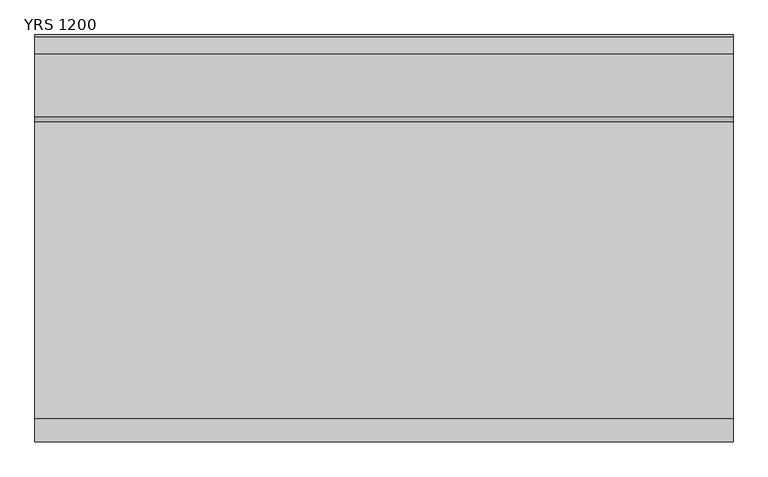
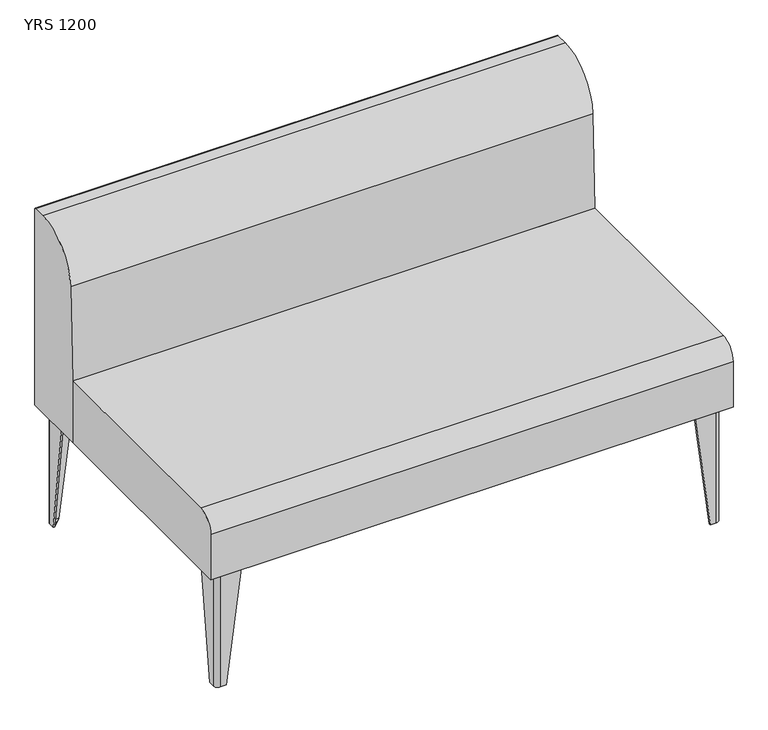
"""IFC4 building model written with IfcOpenShell, lengths in millimetres: furniture geometry, Mobiliário_Mobiliário de Escritório_LinhaYoung_Sofa Reto (Aço) - YR_Marelli : YRS 1200."""

from ifc_helpers import new_model, si_unit, point, frame, frame_2d, origin, origin_with_axes, place, context, project, spatial, polyline, circle_curve, trimmed, segment, composite_curve, outline, extrude, source, transform, mapped, element, save
from ifc_brep_helpers import plane_surface, cylinder_surface, revolved_surface, advanced_brep


def yrs_1200_bf4bd0c3(model_context):
    return source(origin(), model_context, "Body", "SolidModel", [
        advanced_brep(
        [(20.0, 75.0, 280.0), (20.0, 25.0, 280.0), (30.0, 15.0, 280.0), (80.0, 15.0, 280.0), (80.0, 18.0, 280.0), (30.0, 18.0, 280.0), (23.0, 25.0, 280.0), (23.0, 75.0, 280.0), (20.0, 39.0, 0.0), (23.0, 39.0, 0.0), (23.0, 25.0, 0.0), (30.0, 18.0, 0.0), (44.0, 18.0, 0.0), (44.0, 15.0, 0.0), (30.0, 15.0, 0.0), (20.0, 25.0, 0.0)],
        [
            (0, 1),
            (1, 2, circle_curve(frame((30.0, 25.0, 280.0), z_axis=(0.0, 0.0, 1.0), x_axis=(0.0, -1.0, 0.0)), 10.0)),
            (2, 3),
            (3, 4),
            (4, 5),
            (5, 6, circle_curve(frame((30.0, 25.0, 280.0), z_axis=(0.0, 0.0, -1.0), x_axis=(-1.0, 0.0, 0.0)), 7.0)),
            (6, 7),
            (7, 0),
            (8, 9),
            (9, 10),
            (10, 11, circle_curve(frame((30.0, 25.0, 0.0), z_axis=(0.0, 0.0, 1.0), x_axis=(-1.0, 0.0, 0.0)), 7.0)),
            (11, 12),
            (12, 13),
            (13, 14),
            (14, 15, circle_curve(frame((30.0, 25.0, 0.0), z_axis=(0.0, 0.0, -1.0), x_axis=(0.0, -1.0, 0.0)), 10.0)),
            (15, 8),
            (15, 1),
            (0, 8),
            (14, 2),
            (13, 3),
            (12, 4),
            (11, 5),
            (10, 6),
            (9, 7),
        ],
        [
            plane_surface(frame((38.25, 33.25, 280.0), z_axis=(0.0, 0.0, 1.0), x_axis=(0.0, -1.0, 0.0))),
            plane_surface(frame((29.25, 24.25, 0.0), z_axis=(0.0, 0.0, -1.0), x_axis=(0.0, -1.0, 0.0))),
            plane_surface(frame((20.0, 32.0, 0.0), z_axis=(-1.0, 0.0, 0.0), x_axis=(0.0, -1.0, 0.0))),
            cylinder_surface(frame((30.0, 25.0, 0.0), z_axis=(0.0, 0.0, 1.0), x_axis=(0.0, -1.0, 0.0)), 10.0),
            plane_surface(frame((37.0, 15.0, 0.0), z_axis=(0.0, -1.0, 0.0), x_axis=(1.0, 0.0, 0.0))),
            plane_surface(frame((44.0, 16.5, 0.0), z_axis=(0.9918357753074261, 0.0, -0.12752174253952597), x_axis=(0.0, 1.0, 0.0))),
            plane_surface(frame((37.0, 18.0, 0.0), z_axis=(0.0, 1.0, 0.0), x_axis=(-1.0, 0.0, 0.0))),
            revolved_surface(polyline([(23.0, 25.0, 280.0), (23.0, 25.0, 0.0)]), (30.0, 25.0, 0.0), (0.0, 0.0, 1.0)),
            plane_surface(frame((23.0, 32.0, 0.0), z_axis=(1.0, 0.0, 0.0), x_axis=(0.0, 1.0, 0.0))),
            plane_surface(frame((21.5, 39.0, 0.0), z_axis=(0.0, 0.9918357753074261, -0.12752174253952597), x_axis=(-1.0, 0.0, 0.0))),
        ],
        [
            (0, [[1, 2, 3, 4, 5, 6, 7, 8]]),
            (1, [[9, 10, 11, 12, 13, 14, 15, 16]]),
            (2, [[-16, 17, -1, 18]]),
            (3, [[-15, 19, -2, -17]]),
            (4, [[-14, 20, -3, -19]]),
            (5, [[-13, 21, -4, -20]]),
            (6, [[-12, 22, -5, -21]]),
            (7, [[-11, 23, -6, -22]]),
            (8, [[-10, 24, -7, -23]]),
            (9, [[-9, -18, -8, -24]]),
        ],
    ),
        advanced_brep(
        [(1180.0, 75.0, 280.0), (1177.0, 75.0, 280.0), (1177.0, 25.0, 280.0), (1170.0, 18.0, 280.0), (1120.0, 18.0, 280.0), (1120.0, 15.0, 280.0), (1170.0, 15.0, 280.0), (1180.0, 25.0, 280.0), (1180.0, 39.0, 0.0), (1180.0, 25.0, 0.0), (1170.0, 15.0, 0.0), (1156.0, 15.0, 0.0), (1156.0, 18.0, 0.0), (1170.0, 18.0, 0.0), (1177.0, 25.0, 0.0), (1177.0, 39.0, 0.0)],
        [
            (0, 1),
            (1, 2),
            (2, 3, circle_curve(frame((1170.0, 25.0, 280.0), z_axis=(0.0, 0.0, -1.0), x_axis=(0.0, -1.0, 0.0)), 7.0)),
            (3, 4),
            (4, 5),
            (5, 6),
            (6, 7, circle_curve(frame((1170.0, 25.0, 280.0), z_axis=(0.0, 0.0, 1.0), x_axis=(1.0, 0.0, 0.0)), 10.0)),
            (7, 0),
            (8, 9),
            (9, 10, circle_curve(frame((1170.0, 25.0, 0.0), z_axis=(0.0, 0.0, -1.0), x_axis=(1.0, 0.0, 0.0)), 10.0)),
            (10, 11),
            (11, 12),
            (12, 13),
            (13, 14, circle_curve(frame((1170.0, 25.0, 0.0), z_axis=(0.0, 0.0, 1.0), x_axis=(0.0, -1.0, 0.0)), 7.0)),
            (14, 15),
            (15, 8),
            (8, 0),
            (7, 9),
            (6, 10),
            (5, 11),
            (4, 12),
            (3, 13),
            (2, 14),
            (1, 15),
        ],
        [
            plane_surface(frame((1161.75, 33.25, 280.0), z_axis=(0.0, 0.0, 1.0), x_axis=(-1.0, 0.0, 0.0))),
            plane_surface(frame((1170.75, 24.25, 0.0), z_axis=(0.0, 0.0, -1.0), x_axis=(-1.0, 0.0, 0.0))),
            plane_surface(frame((1180.0, 32.0, 0.0), z_axis=(1.0, 0.0, 0.0), x_axis=(0.0, 1.0, 0.0))),
            cylinder_surface(frame((1170.0, 25.0, 0.0), z_axis=(0.0, 0.0, 1.0), x_axis=(1.0, 0.0, 0.0)), 10.0),
            plane_surface(frame((1163.0, 15.0, 0.0), z_axis=(0.0, -1.0, 0.0), x_axis=(1.0, 0.0, 0.0))),
            plane_surface(frame((1156.0, 16.5, 0.0), z_axis=(-0.9918357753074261, 0.0, -0.127521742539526), x_axis=(0.0, -1.0, 0.0))),
            plane_surface(frame((1163.0, 18.0, 0.0), z_axis=(0.0, 1.0, 0.0), x_axis=(-1.0, 0.0, 0.0))),
            revolved_surface(polyline([(1170.0, 18.0, 280.0), (1170.0, 18.0, 0.0)]), (1170.0, 25.0, 0.0), (0.0, 0.0, 1.0)),
            plane_surface(frame((1177.0, 32.0, 0.0), z_axis=(-1.0, 0.0, 0.0), x_axis=(0.0, -1.0, 0.0))),
            plane_surface(frame((1178.5, 39.0, 0.0), z_axis=(0.0, 0.9918357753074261, -0.12752174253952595), x_axis=(-1.0, 0.0, 0.0))),
        ],
        [
            (0, [[1, 2, 3, 4, 5, 6, 7, 8]]),
            (1, [[9, 10, 11, 12, 13, 14, 15, 16]]),
            (2, [[-9, 17, -8, 18]]),
            (3, [[-10, -18, -7, 19]]),
            (4, [[-11, -19, -6, 20]]),
            (5, [[-12, -20, -5, 21]]),
            (6, [[-13, -21, -4, 22]]),
            (7, [[-14, -22, -3, 23]]),
            (8, [[-15, -23, -2, 24]]),
            (9, [[-16, -24, -1, -17]]),
        ],
    ),
        advanced_brep(
        [(20.0, 625.0, 280.0), (23.0, 625.0, 280.0), (23.0, 675.0, 280.0), (30.0, 682.0, 280.0), (80.0, 682.0, 280.0), (80.0, 685.0, 280.0), (30.0, 685.0, 280.0), (20.0, 675.0, 280.0), (20.0, 661.0, 0.0), (20.0, 675.0, 0.0), (30.0, 685.0, 0.0), (44.0, 685.0, 0.0), (44.0, 682.0, 0.0), (30.0, 682.0, 0.0), (23.0, 675.0, 0.0), (23.0, 661.0, 0.0)],
        [
            (0, 1),
            (1, 2),
            (2, 3, circle_curve(frame((30.0, 675.0, 280.0), z_axis=(0.0, 0.0, -1.0), x_axis=(0.0, 1.0, 0.0)), 7.0)),
            (3, 4),
            (4, 5),
            (5, 6),
            (6, 7, circle_curve(frame((30.0, 675.0, 280.0), z_axis=(0.0, 0.0, 1.0), x_axis=(-1.0, 0.0, 0.0)), 10.0)),
            (7, 0),
            (8, 9),
            (9, 10, circle_curve(frame((30.0, 675.0, 0.0), z_axis=(0.0, 0.0, -1.0), x_axis=(-1.0, 0.0, 0.0)), 10.0)),
            (10, 11),
            (11, 12),
            (12, 13),
            (13, 14, circle_curve(frame((30.0, 675.0, 0.0), z_axis=(0.0, 0.0, 1.0), x_axis=(0.0, 1.0, 0.0)), 7.0)),
            (14, 15),
            (15, 8),
            (8, 0),
            (7, 9),
            (6, 10),
            (5, 11),
            (4, 12),
            (3, 13),
            (2, 14),
            (1, 15),
        ],
        [
            plane_surface(frame((38.25, 666.75, 280.0), z_axis=(0.0, 0.0, 1.0), x_axis=(1.0, 0.0, 0.0))),
            plane_surface(frame((29.25, 675.75, 0.0), z_axis=(0.0, 0.0, -1.0), x_axis=(1.0, 0.0, 0.0))),
            plane_surface(frame((20.0, 668.0, 0.0), z_axis=(-1.0, 0.0, 0.0), x_axis=(0.0, -1.0, 0.0))),
            cylinder_surface(frame((30.0, 675.0, 0.0), z_axis=(0.0, 0.0, 1.0), x_axis=(-1.0, 0.0, 0.0)), 10.0),
            plane_surface(frame((37.0, 685.0, 0.0), z_axis=(0.0, 1.0, 0.0), x_axis=(-1.0, 0.0, 0.0))),
            plane_surface(frame((44.0, 683.5, 0.0), z_axis=(0.9918357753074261, 0.0, -0.12752174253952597), x_axis=(0.0, 1.0, 0.0))),
            plane_surface(frame((37.0, 682.0, 0.0), z_axis=(0.0, -1.0, 0.0), x_axis=(1.0, 0.0, 0.0))),
            revolved_surface(polyline([(30.0, 682.0, 280.0), (30.0, 682.0, 0.0)]), (30.0, 675.0, 0.0), (0.0, 0.0, 1.0)),
            plane_surface(frame((23.0, 668.0, 0.0), z_axis=(1.0, 0.0, 0.0), x_axis=(0.0, 1.0, 0.0))),
            plane_surface(frame((21.5, 661.0, 0.0), z_axis=(0.0, -0.9918357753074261, -0.127521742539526), x_axis=(1.0, 0.0, 0.0))),
        ],
        [
            (0, [[1, 2, 3, 4, 5, 6, 7, 8]]),
            (1, [[9, 10, 11, 12, 13, 14, 15, 16]]),
            (2, [[-9, 17, -8, 18]]),
            (3, [[-10, -18, -7, 19]]),
            (4, [[-11, -19, -6, 20]]),
            (5, [[-12, -20, -5, 21]]),
            (6, [[-13, -21, -4, 22]]),
            (7, [[-14, -22, -3, 23]]),
            (8, [[-15, -23, -2, 24]]),
            (9, [[-16, -24, -1, -17]]),
        ],
    ),
        advanced_brep(
        [(1180.0, 625.0, 280.0), (1180.0, 675.0, 280.0), (1170.0, 685.0, 280.0), (1120.0, 685.0, 280.0), (1120.0, 682.0, 280.0), (1170.0, 682.0, 280.0), (1177.0, 675.0, 280.0), (1177.0, 625.0, 280.0), (1180.0, 661.0, 0.0), (1177.0, 661.0, 0.0), (1177.0, 675.0, 0.0), (1170.0, 682.0, 0.0), (1156.0, 682.0, 0.0), (1156.0, 685.0, 0.0), (1170.0, 685.0, 0.0), (1180.0, 675.0, 0.0)],
        [
            (0, 1),
            (1, 2, circle_curve(frame((1170.0, 675.0, 280.0), z_axis=(0.0, 0.0, 1.0), x_axis=(0.0, 1.0, 0.0)), 10.0)),
            (2, 3),
            (3, 4),
            (4, 5),
            (5, 6, circle_curve(frame((1170.0, 675.0, 280.0), z_axis=(0.0, 0.0, -1.0), x_axis=(1.0, 0.0, 0.0)), 7.0)),
            (6, 7),
            (7, 0),
            (8, 9),
            (9, 10),
            (10, 11, circle_curve(frame((1170.0, 675.0, 0.0), z_axis=(0.0, 0.0, 1.0), x_axis=(1.0, 0.0, 0.0)), 7.0)),
            (11, 12),
            (12, 13),
            (13, 14),
            (14, 15, circle_curve(frame((1170.0, 675.0, 0.0), z_axis=(0.0, 0.0, -1.0), x_axis=(0.0, 1.0, 0.0)), 10.0)),
            (15, 8),
            (15, 1),
            (0, 8),
            (14, 2),
            (13, 3),
            (12, 4),
            (11, 5),
            (10, 6),
            (9, 7),
        ],
        [
            plane_surface(frame((1161.75, 666.75, 280.0), z_axis=(0.0, 0.0, 1.0), x_axis=(0.0, 1.0, 0.0))),
            plane_surface(frame((1170.75, 675.75, 0.0), z_axis=(0.0, 0.0, -1.0), x_axis=(0.0, 1.0, 0.0))),
            plane_surface(frame((1180.0, 668.0, 0.0), z_axis=(1.0, 0.0, 0.0), x_axis=(0.0, 1.0, 0.0))),
            cylinder_surface(frame((1170.0, 675.0, 0.0), z_axis=(0.0, 0.0, 1.0), x_axis=(0.0, 1.0, 0.0)), 10.0),
            plane_surface(frame((1163.0, 685.0, 0.0), z_axis=(0.0, 1.0, 0.0), x_axis=(-1.0, 0.0, 0.0))),
            plane_surface(frame((1156.0, 683.5, 0.0), z_axis=(-0.991835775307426, 0.0, -0.12752174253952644), x_axis=(0.0, -1.0, 0.0))),
            plane_surface(frame((1163.0, 682.0, 0.0), z_axis=(0.0, -1.0, 0.0), x_axis=(1.0, 0.0, 0.0))),
            revolved_surface(polyline([(1177.0, 675.0, 280.0), (1177.0, 675.0, 0.0)]), (1170.0, 675.0, 0.0), (0.0, 0.0, 1.0)),
            plane_surface(frame((1177.0, 668.0, 0.0), z_axis=(-1.0, 0.0, 0.0), x_axis=(0.0, -1.0, 0.0))),
            plane_surface(frame((1178.5, 661.0, 0.0), z_axis=(0.0, -0.9918357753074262, -0.12752174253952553), x_axis=(1.0, 0.0, 0.0))),
        ],
        [
            (0, [[1, 2, 3, 4, 5, 6, 7, 8]]),
            (1, [[9, 10, 11, 12, 13, 14, 15, 16]]),
            (2, [[-16, 17, -1, 18]]),
            (3, [[-15, 19, -2, -17]]),
            (4, [[-14, 20, -3, -19]]),
            (5, [[-13, 21, -4, -20]]),
            (6, [[-12, 22, -5, -21]]),
            (7, [[-11, 23, -6, -22]]),
            (8, [[-10, 24, -7, -23]]),
            (9, [[-9, -18, -8, -24]]),
        ],
    ),
        extrude(outline(composite_curve([segment(polyline([(23.0, 39.0), (44.0, 18.0), (30.0, 18.0)]), True, "CONTINUOUS"), segment(trimmed(circle_curve(frame_2d((30.0, 25.0)), 7.0), [point((30.0, 18.0))], [point((23.0, 25.0))], False, "CARTESIAN"), True, "CONTINUOUS"), segment(polyline([(23.0, 25.0), (23.0, 39.0)]), True, "CONTINUOUS")], self_intersect=False)), origin_with_axes(), (0.0, 0.0, 1.0), 1.0),
        extrude(outline(composite_curve([segment(polyline([(23.0, 661.0), (23.0, 675.0)]), True, "CONTINUOUS"), segment(trimmed(circle_curve(frame_2d((30.0, 675.0)), 7.0), [point((23.0, 675.0))], [point((30.0, 682.0))], False, "CARTESIAN"), True, "CONTINUOUS"), segment(polyline([(30.0, 682.0), (44.0, 682.0), (23.0, 661.0)]), True, "CONTINUOUS")], self_intersect=False)), origin_with_axes(), (0.0, 0.0, 1.0), 1.0),
        extrude(outline(composite_curve([segment(polyline([(1177.0, 39.0), (1177.0, 25.0)]), True, "CONTINUOUS"), segment(trimmed(circle_curve(frame_2d((1170.0, 25.0)), 7.0), [point((1177.0, 25.0))], [point((1170.0, 18.0))], False, "CARTESIAN"), True, "CONTINUOUS"), segment(polyline([(1170.0, 18.0), (1156.0, 18.0), (1177.0, 39.0)]), True, "CONTINUOUS")], self_intersect=False)), origin_with_axes(), (0.0, 0.0, 1.0), 1.0),
        extrude(outline(composite_curve([segment(polyline([(1177.0, 661.0), (1156.0, 682.0), (1170.0, 682.0)]), True, "CONTINUOUS"), segment(trimmed(circle_curve(frame_2d((1170.0, 675.0)), 7.0), [point((1170.0, 682.0))], [point((1177.0, 675.0))], False, "CARTESIAN"), True, "CONTINUOUS"), segment(polyline([(1177.0, 675.0), (1177.0, 661.0)]), True, "CONTINUOUS")], self_intersect=False)), origin_with_axes(), (0.0, 0.0, 1.0), 1.0),
        extrude(outline(composite_curve([segment(trimmed(circle_curve(frame_2d((30.0, 25.0)), 7.0), [point((30.0, 18.0))], [point((23.0, 25.0))], False, "CARTESIAN"), True, "CONTINUOUS"), segment(polyline([(23.0, 25.0), (23.0, 93.0)]), True, "CONTINUOUS"), segment(trimmed(circle_curve(frame_2d((28.0, 93.0)), 5.0), [point((23.0, 93.0))], [point((28.0, 98.0))], False, "CARTESIAN"), True, "CONTINUOUS"), segment(polyline([(28.0, 98.0), (51.9545624, 98.0)]), True, "CONTINUOUS"), segment(trimmed(circle_curve(frame_2d((52.6241051, 89.931755)), 8.0959783), [point((51.9545624, 98.0))], [point((58.520382, 95.479618))], False, "CARTESIAN"), True, "CONTINUOUS"), segment(polyline([(58.520382, 95.479618), (100.479618, 53.520382)]), True, "CONTINUOUS"), segment(trimmed(circle_curve(frame_2d((94.931755, 47.6241051)), 8.0959783), [point((100.479618, 53.520382))], [point((103.0, 46.9545624))], False, "CARTESIAN"), True, "CONTINUOUS"), segment(polyline([(103.0, 46.9545624), (103.0, 23.0)]), True, "CONTINUOUS"), segment(trimmed(circle_curve(frame_2d((98.0, 23.0)), 5.0), [point((103.0, 23.0))], [point((98.0, 18.0))], False, "CARTESIAN"), True, "CONTINUOUS"), segment(polyline([(98.0, 18.0), (30.0, 18.0)]), True, "CONTINUOUS")], self_intersect=False)), frame((0.0, 0.0, 279.0), z_axis=(0.0, 0.0, 1.0), x_axis=(1.0, 0.0, 0.0)), (0.0, 0.0, 1.0), 1.0),
        extrude(outline(composite_curve([segment(polyline([(30.0, 682.0), (98.0, 682.0)]), True, "CONTINUOUS"), segment(trimmed(circle_curve(frame_2d((98.0, 677.0)), 5.0), [point((98.0, 682.0))], [point((103.0, 677.0))], False, "CARTESIAN"), True, "CONTINUOUS"), segment(polyline([(103.0, 677.0), (103.0, 653.0454376)]), True, "CONTINUOUS"), segment(trimmed(circle_curve(frame_2d((94.931755, 652.3758949)), 8.0959783), [point((103.0, 653.0454376))], [point((100.479618, 646.479618))], False, "CARTESIAN"), True, "CONTINUOUS"), segment(polyline([(100.479618, 646.479618), (58.520382, 604.520382)]), True, "CONTINUOUS"), segment(trimmed(circle_curve(frame_2d((52.6241051, 610.068245)), 8.0959783), [point((58.520382, 604.520382))], [point((51.9545624, 602.0))], False, "CARTESIAN"), True, "CONTINUOUS"), segment(polyline([(51.9545624, 602.0), (28.0, 602.0)]), True, "CONTINUOUS"), segment(trimmed(circle_curve(frame_2d((28.0, 607.0)), 5.0), [point((28.0, 602.0))], [point((23.0, 607.0))], False, "CARTESIAN"), True, "CONTINUOUS"), segment(polyline([(23.0, 607.0), (23.0, 675.0)]), True, "CONTINUOUS"), segment(trimmed(circle_curve(frame_2d((30.0, 675.0)), 7.0), [point((23.0, 675.0))], [point((30.0, 682.0))], False, "CARTESIAN"), True, "CONTINUOUS")], self_intersect=False)), frame((0.0, 0.0, 279.0), z_axis=(0.0, 0.0, 1.0), x_axis=(1.0, 0.0, 0.0)), (0.0, 0.0, 1.0), 1.0),
        extrude(outline(composite_curve([segment(polyline([(1170.0, 18.0), (1102.0, 18.0)]), True, "CONTINUOUS"), segment(trimmed(circle_curve(frame_2d((1102.0, 23.0)), 5.0), [point((1102.0, 18.0))], [point((1097.0, 23.0))], False, "CARTESIAN"), True, "CONTINUOUS"), segment(polyline([(1097.0, 23.0), (1097.0, 46.9545624)]), True, "CONTINUOUS"), segment(trimmed(circle_curve(frame_2d((1105.068245, 47.6241051)), 8.0959783), [point((1097.0, 46.9545624))], [point((1099.520382, 53.520382))], False, "CARTESIAN"), True, "CONTINUOUS"), segment(polyline([(1099.520382, 53.520382), (1141.479618, 95.479618)]), True, "CONTINUOUS"), segment(trimmed(circle_curve(frame_2d((1147.3758949, 89.931755)), 8.0959783), [point((1141.479618, 95.479618))], [point((1148.0454376, 98.0))], False, "CARTESIAN"), True, "CONTINUOUS"), segment(polyline([(1148.0454376, 98.0), (1172.0, 98.0)]), True, "CONTINUOUS"), segment(trimmed(circle_curve(frame_2d((1172.0, 93.0)), 5.0), [point((1172.0, 98.0))], [point((1177.0, 93.0))], False, "CARTESIAN"), True, "CONTINUOUS"), segment(polyline([(1177.0, 93.0), (1177.0, 25.0)]), True, "CONTINUOUS"), segment(trimmed(circle_curve(frame_2d((1170.0, 25.0)), 7.0), [point((1177.0, 25.0))], [point((1170.0, 18.0))], False, "CARTESIAN"), True, "CONTINUOUS")], self_intersect=False)), frame((0.0, 0.0, 279.0), z_axis=(0.0, 0.0, 1.0), x_axis=(1.0, 0.0, 0.0)), (0.0, 0.0, 1.0), 1.0),
        extrude(outline(composite_curve([segment(trimmed(circle_curve(frame_2d((1170.0, 675.0)), 7.0), [point((1170.0, 682.0))], [point((1177.0, 675.0))], False, "CARTESIAN"), True, "CONTINUOUS"), segment(polyline([(1177.0, 675.0), (1177.0, 607.0)]), True, "CONTINUOUS"), segment(trimmed(circle_curve(frame_2d((1172.0, 607.0)), 5.0), [point((1177.0, 607.0))], [point((1172.0, 602.0))], False, "CARTESIAN"), True, "CONTINUOUS"), segment(polyline([(1172.0, 602.0), (1148.0454376, 602.0)]), True, "CONTINUOUS"), segment(trimmed(circle_curve(frame_2d((1147.3758949, 610.068245)), 8.0959783), [point((1148.0454376, 602.0))], [point((1141.479618, 604.520382))], False, "CARTESIAN"), True, "CONTINUOUS"), segment(polyline([(1141.479618, 604.520382), (1099.520382, 646.479618)]), True, "CONTINUOUS"), segment(trimmed(circle_curve(frame_2d((1105.068245, 652.3758949)), 8.0959783), [point((1099.520382, 646.479618))], [point((1097.0, 653.0454376))], False, "CARTESIAN"), True, "CONTINUOUS"), segment(polyline([(1097.0, 653.0454376), (1097.0, 677.0)]), True, "CONTINUOUS"), segment(trimmed(circle_curve(frame_2d((1102.0, 677.0)), 5.0), [point((1097.0, 677.0))], [point((1102.0, 682.0))], False, "CARTESIAN"), True, "CONTINUOUS"), segment(polyline([(1102.0, 682.0), (1170.0, 682.0)]), True, "CONTINUOUS")], self_intersect=False)), frame((0.0, 0.0, 279.0), z_axis=(0.0, 0.0, 1.0), x_axis=(1.0, 0.0, 0.0)), (0.0, 0.0, 1.0), 1.0),
        extrude(outline(composite_curve([segment(polyline([(700.0, 756.802426), (700.0, 280.0), (550.0, 280.0), (550.0, 430.0), (558.2568376, 654.223651)]), True, "CONTINUOUS"), segment(trimmed(circle_curve(frame_2d((668.0, 650.1824561)), 109.8175439), [point((558.2568376, 654.223651))], [point((668.0, 760.0))], False, "CARTESIAN"), True, "CONTINUOUS"), segment(polyline([(668.0, 760.0), (696.802426, 760.0)]), True, "CONTINUOUS"), segment(trimmed(circle_curve(frame_2d((696.802426, 756.802426)), 3.197574), [point((696.802426, 760.0))], [point((700.0, 756.802426))], False, "CARTESIAN"), True, "CONTINUOUS")], self_intersect=False)), frame((0.0, 0.0, 0.0), z_axis=(1.0, 0.0, 0.0), x_axis=(0.0, 1.0, 0.0)), (0.0, 0.0, 1.0), 1200.0),
        extrude(outline(composite_curve([segment(polyline([(550.0, 430.0), (550.0, 280.0), (0.0, 280.0), (0.0, 390.0)]), True, "CONTINUOUS"), segment(trimmed(circle_curve(frame_2d((40.0, 390.0)), 40.0), [point((0.0, 390.0))], [point((40.0, 430.0))], False, "CARTESIAN"), True, "CONTINUOUS"), segment(polyline([(40.0, 430.0), (550.0, 430.0)]), True, "CONTINUOUS")], self_intersect=False)), frame((0.0, 0.0, 0.0), z_axis=(1.0, 0.0, 0.0), x_axis=(0.0, 1.0, 0.0)), (0.0, 0.0, 1.0), 1200.0),
    ])


if __name__ == "__main__":
    model = new_model("IFC4")
    model_context = context("Model", 3, world=origin())
    ifc_project = project(units=[si_unit("LENGTHUNIT", "METRE", prefix="MILLI")], contexts=[model_context])
    site = spatial("IfcSite", under=ifc_project)
    building = spatial("IfcBuilding", under=site)
    placement = place(None, origin())
    yrs_1200_shape = yrs_1200_bf4bd0c3(model_context)
    element("IfcFurniture", 1, ObjectType="Mobiliário_Mobiliário de Escritório_LinhaYoung_Sofa Reto (Aço) - YR_Marelli : YRS 1200", at=placement, inside=building, context=model_context, shape_type="MappedRepresentation", body=[
        mapped(yrs_1200_shape, transform((0.0, 0.0, 0.0), x_axis=(1.0, 0.0, 0.0), y_axis=(0.0, 1.0, 0.0), z_axis=(0.0, 0.0, 1.0))),
    ])
    save(model, "model.ifc")
